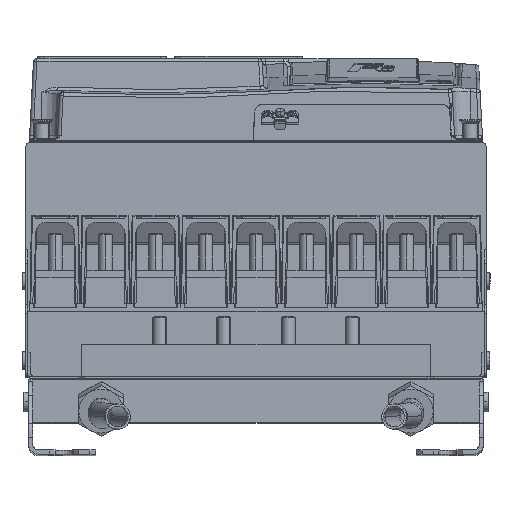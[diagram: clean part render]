
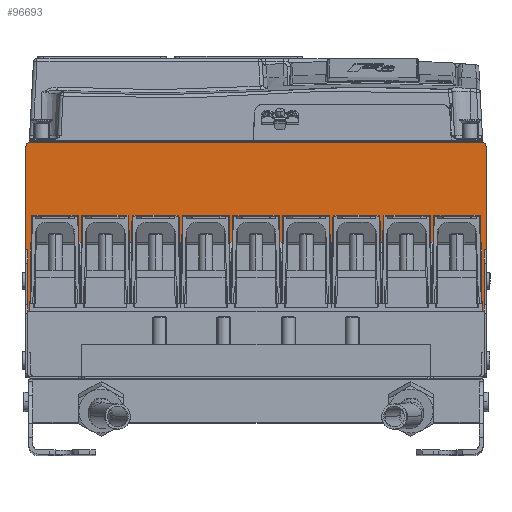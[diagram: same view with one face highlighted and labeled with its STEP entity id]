
A CAD part, top view. The second image highlights one B-rep face of the part: STEP entity #96693.
In plain terms, the highlighted planar face has unit normal (0, 0, 1).
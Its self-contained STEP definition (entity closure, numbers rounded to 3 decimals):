
#25 = ORIENTED_EDGE ( 'NONE', *, *, #5919, .F. ) ;
#548 = EDGE_LOOP ( 'NONE', ( #25, #42776, #3036, #60391, #55645, #12682, #72818, #93581, #31393, #55770 ) ) ;
#652 = EDGE_CURVE ( 'NONE', #73556, #51220, #42305, .T. ) ;
#967 = EDGE_CURVE ( 'NONE', #64002, #17966, #25076, .T. ) ;
#1185 = VECTOR ( 'NONE', #10601, 1000. ) ;
#1416 = AXIS2_PLACEMENT_3D ( 'NONE', #101911, #76229, #59640 ) ;
#1597 = CARTESIAN_POINT ( 'NONE',  ( -163.5, 0., 453. ) ) ;
#2579 = VERTEX_POINT ( 'NONE', #102577 ) ;
#3036 = ORIENTED_EDGE ( 'NONE', *, *, #66160, .T. ) ;
#4001 = VECTOR ( 'NONE', #90944, 1000. ) ;
#4266 = EDGE_CURVE ( 'NONE', #36361, #2579, #38907, .T. ) ;
#4915 = DIRECTION ( 'NONE',  ( 0., 1., 0. ) ) ;
#4919 = VERTEX_POINT ( 'NONE', #62225 ) ;
#5645 = CARTESIAN_POINT ( 'NONE',  ( -165., -77., 453. ) ) ;
#5919 = EDGE_CURVE ( 'NONE', #4919, #64002, #40730, .T. ) ;
#9293 = VECTOR ( 'NONE', #83556, 1000. ) ;
#10601 = DIRECTION ( 'NONE',  ( 0., -1., 0. ) ) ;
#10639 = CARTESIAN_POINT ( 'NONE',  ( 165.001, -77., 453. ) ) ;
#12682 = ORIENTED_EDGE ( 'NONE', *, *, #4266, .F. ) ;
#14994 = DIRECTION ( 'NONE',  ( -1., 0., 0. ) ) ;
#17966 = VERTEX_POINT ( 'NONE', #68098 ) ;
#18605 = LINE ( 'NONE', #35748, #72206 ) ;
#19578 = CARTESIAN_POINT ( 'NONE',  ( -163.5, -77., 453. ) ) ;
#22588 = CARTESIAN_POINT ( 'NONE',  ( 0., 0., 453. ) ) ;
#23021 = VERTEX_POINT ( 'NONE', #73496 ) ;
#25076 = LINE ( 'NONE', #66894, #4001 ) ;
#25292 = CARTESIAN_POINT ( 'NONE',  ( 165., -77., 453. ) ) ;
#30020 = LINE ( 'NONE', #62162, #74443 ) ;
#30439 = EDGE_CURVE ( 'NONE', #87721, #23021, #18605, .T. ) ;
#31393 = ORIENTED_EDGE ( 'NONE', *, *, #90454, .F. ) ;
#32959 = CARTESIAN_POINT ( 'NONE',  ( 163.5, -77., 453. ) ) ;
#35748 = CARTESIAN_POINT ( 'NONE',  ( 165., -3.5, 453. ) ) ;
#36361 = VERTEX_POINT ( 'NONE', #32959 ) ;
#37634 = DIRECTION ( 'NONE',  ( 0., 0., -1. ) ) ;
#38907 = LINE ( 'NONE', #79063, #66227 ) ;
#39028 = DIRECTION ( 'NONE',  ( 0., 1., 0. ) ) ;
#39210 = FACE_OUTER_BOUND ( 'NONE', #548, .T. ) ;
#40613 = CARTESIAN_POINT ( 'NONE',  ( 161.5, -3.5, 453. ) ) ;
#40730 = CIRCLE ( 'NONE', #1416, 3.5 ) ;
#42305 = LINE ( 'NONE', #1597, #9293 ) ;
#42776 = ORIENTED_EDGE ( 'NONE', *, *, #102185, .T. ) ;
#45640 = PLANE ( 'NONE',  #76518 ) ;
#46340 = AXIS2_PLACEMENT_3D ( 'NONE', #40613, #95821, #39028 ) ;
#49819 = LINE ( 'NONE', #91067, #74615 ) ;
#51220 = VERTEX_POINT ( 'NONE', #19578 ) ;
#52007 = EDGE_CURVE ( 'NONE', #87721, #36361, #102239, .T. ) ;
#55645 = ORIENTED_EDGE ( 'NONE', *, *, #100681, .F. ) ;
#55770 = ORIENTED_EDGE ( 'NONE', *, *, #967, .F. ) ;
#58345 = LINE ( 'NONE', #90990, #1185 ) ;
#59353 = VERTEX_POINT ( 'NONE', #5645 ) ;
#59640 = DIRECTION ( 'NONE',  ( 0., 1., 0. ) ) ;
#59839 = CARTESIAN_POINT ( 'NONE',  ( -161.5, 0., 453. ) ) ;
#60391 = ORIENTED_EDGE ( 'NONE', *, *, #652, .F. ) ;
#61500 = DIRECTION ( 'NONE',  ( -1., 0., 0. ) ) ;
#62162 = CARTESIAN_POINT ( 'NONE',  ( 0., -167.9, 453. ) ) ;
#62225 = CARTESIAN_POINT ( 'NONE',  ( -165., -3.5, 453. ) ) ;
#64002 = VERTEX_POINT ( 'NONE', #59839 ) ;
#66160 = EDGE_CURVE ( 'NONE', #59353, #51220, #49819, .T. ) ;
#66227 = VECTOR ( 'NONE', #81177, 1000. ) ;
#66894 = CARTESIAN_POINT ( 'NONE',  ( 0., 0., 453. ) ) ;
#67955 = DIRECTION ( 'NONE',  ( 0., 1., 0. ) ) ;
#68098 = CARTESIAN_POINT ( 'NONE',  ( 161.5, 0., 453. ) ) ;
#69345 = CARTESIAN_POINT ( 'NONE',  ( -163.5, -167.9, 453. ) ) ;
#72206 = VECTOR ( 'NONE', #67955, 1000. ) ;
#72818 = ORIENTED_EDGE ( 'NONE', *, *, #52007, .F. ) ;
#73496 = CARTESIAN_POINT ( 'NONE',  ( 165., -3.5, 453. ) ) ;
#73556 = VERTEX_POINT ( 'NONE', #69345 ) ;
#74443 = VECTOR ( 'NONE', #14994, 1000. ) ;
#74615 = VECTOR ( 'NONE', #81442, 1000. ) ;
#76229 = DIRECTION ( 'NONE',  ( 0., 0., -1. ) ) ;
#76518 = AXIS2_PLACEMENT_3D ( 'NONE', #22588, #37634, #4915 ) ;
#79063 = CARTESIAN_POINT ( 'NONE',  ( 163.5, 0., 453. ) ) ;
#81177 = DIRECTION ( 'NONE',  ( 0., -1., 0. ) ) ;
#81442 = DIRECTION ( 'NONE',  ( 1., 0., 0. ) ) ;
#83556 = DIRECTION ( 'NONE',  ( 0., 1., 0. ) ) ;
#87721 = VERTEX_POINT ( 'NONE', #25292 ) ;
#90454 = EDGE_CURVE ( 'NONE', #17966, #23021, #90757, .T. ) ;
#90757 = CIRCLE ( 'NONE', #46340, 3.5 ) ;
#90944 = DIRECTION ( 'NONE',  ( 1., 0., 0. ) ) ;
#90990 = CARTESIAN_POINT ( 'NONE',  ( -165., -3.5, 453. ) ) ;
#91067 = CARTESIAN_POINT ( 'NONE',  ( -165.001, -77., 453. ) ) ;
#93581 = ORIENTED_EDGE ( 'NONE', *, *, #30439, .T. ) ;
#95821 = DIRECTION ( 'NONE',  ( 0., 0., -1. ) ) ;
#96693 = ADVANCED_FACE ( 'NONE', ( #39210 ), #45640, .F. ) ;
#97234 = VECTOR ( 'NONE', #61500, 1000. ) ;
#100681 = EDGE_CURVE ( 'NONE', #2579, #73556, #30020, .T. ) ;
#101911 = CARTESIAN_POINT ( 'NONE',  ( -161.5, -3.5, 453. ) ) ;
#102185 = EDGE_CURVE ( 'NONE', #4919, #59353, #58345, .T. ) ;
#102239 = LINE ( 'NONE', #10639, #97234 ) ;
#102577 = CARTESIAN_POINT ( 'NONE',  ( 163.5, -167.9, 453. ) ) ;
